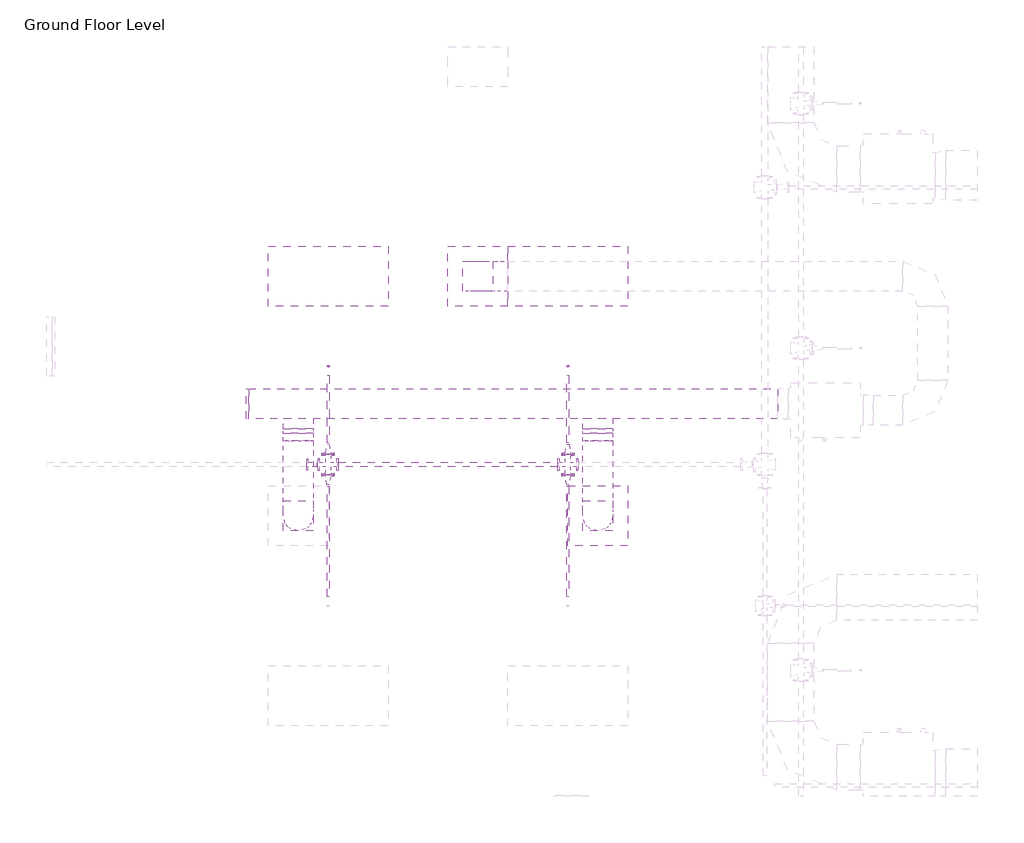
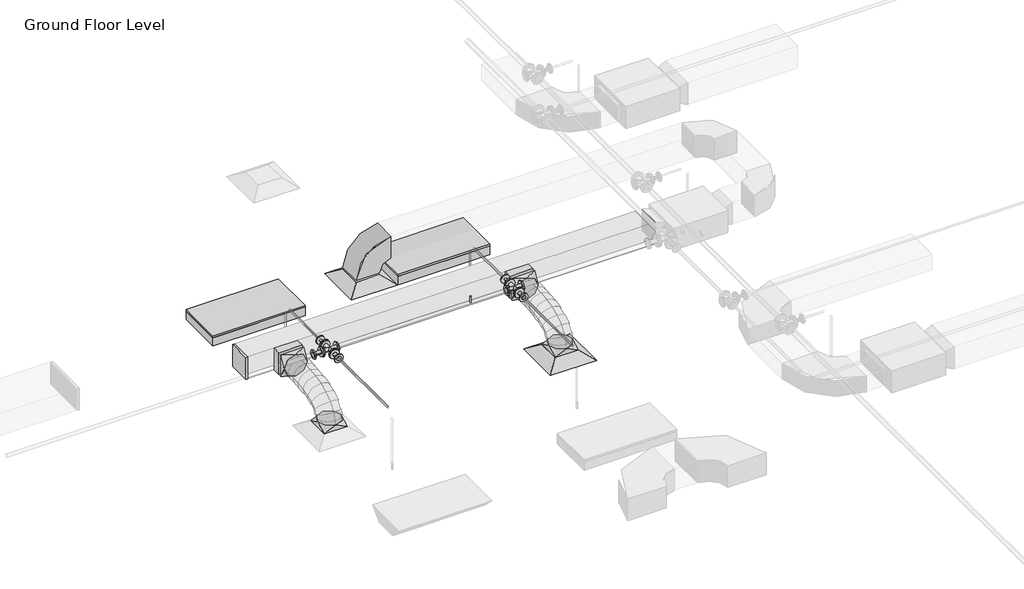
# One storey, part 34 of 66: 8 duct fittings, 7 pipe fittings, 7 pipe segments, 6 duct segments, 2 air terminals, 2 fire suppression terminals, 2 light fixtures.
"""IFC4 building model written with IfcOpenShell, lengths in millimetres."""

from ifc_helpers import new_model, si_unit, point, frame, frame_2d, origin, place, context, project, spatial, polyline, circle_curve, ellipse_curve, trimmed, segment, composite_curve, outline, extrude, transform, mapped, element, save
from ifc_brep_helpers import plane_surface, cylinder_surface, advanced_brep
from components import m_return_diffuser_600_x_600_face_300_x_300_connection_ff221211, m_rectangular_elbow_radius_1_w_618da153, m_rectangular_endcap_standard_c319d4e7, m_rectangular_takeoff_standard_cb0ccb98, m_rectangular_to_round_transition_angle_45_degree_641efff0, m_sprinkler_dry_pendent_hosted_15_mm_dry_pendent_9bda8e11, m_troffer_light_parabolic_rectangular1_0600x1200mm_4_lamp_86473d4a, m_cross_flanged_cs_class_150_standard_fc817054, m_reducer_flanged_cs_class_150_standard_564df86d, m_reducer_flanged_cs_class_150_standard_dc68ad9d

model = new_model("IFC4")

# Units and contexts
model_context = context("Model", 3, world=origin())
ifc_project = project(units=[si_unit("LENGTHUNIT", "METRE", prefix="MILLI")], contexts=[model_context])

# Site, building, storey
site = spatial("IfcSite", under=ifc_project)
building = spatial("IfcBuilding", under=site)
storey = spatial("IfcBuildingStorey", under=building, Name="Ground Floor Level", Elevation=900.0)

# Air terminals
placement = place(None, origin())
m_return_diffuser_600_x_600_face_300_x_300_connection_shape = m_return_diffuser_600_x_600_face_300_x_300_connection_ff221211(model_context)
element("IfcAirTerminal", 1, ObjectType="M_Return Diffuser : 600 x 600 Face 300 x 300 Connection", at=placement, inside=storey, context=model_context, shape_type="MappedRepresentation", body=[
    mapped(m_return_diffuser_600_x_600_face_300_x_300_connection_shape, transform((2762.7672395, -1064.7846466, 3650.0), x_axis=(1.0, 0.0, 0.0), y_axis=(0.0, 1.0, 0.0), z_axis=(0.0, 0.0, 1.0))),
])
element("IfcAirTerminal", 2, ObjectType="M_Supply Diffuser : 600 x 600 Face 300 x 300 Connection", at=placement, inside=storey, context=model_context, shape_type="MappedRepresentation", body=[
    mapped(m_return_diffuser_600_x_600_face_300_x_300_connection_shape, transform((3962.7672395, -3464.7846466, 3650.0), x_axis=(1.0, 0.0, 0.0), y_axis=(0.0, 1.0, 0.0), z_axis=(0.0, 0.0, 1.0))),
])

# Duct fittings
m_rectangular_elbow_radius_1_w_shape = m_rectangular_elbow_radius_1_w_618da153(model_context)
element("IfcDuctFitting", 3, ObjectType="M_Rectangular Elbow - Radius : 1 W", at=placement, inside=storey, context=model_context, shape_type="MappedRepresentation", body=[
    mapped(m_rectangular_elbow_radius_1_w_shape, transform((2762.7672395, -1064.7846466, 4075.2874667), x_axis=(0.0, 0.0, 1.0), y_axis=(1.0, 0.0, 0.0), z_axis=(0.0, 1.0, 0.0))),
])
m_rectangular_endcap_standard_shape = m_rectangular_endcap_standard_c319d4e7(model_context)
element("IfcDuctFitting", 4, ObjectType="M_Rectangular Endcap : Standard", at=placement, inside=storey, context=model_context, shape_type="MappedRepresentation", body=[
    mapped(m_rectangular_endcap_standard_shape, transform((468.0139492, -2341.7438478, 4099.9874667), x_axis=(-0.9999999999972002, 0.0, -2.3663212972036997e-06), y_axis=(0.0, -1.0, 0.0), z_axis=(-2.3663212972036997e-06, 0.0, 0.9999999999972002))),
])
m_rectangular_takeoff_standard_shape = m_rectangular_takeoff_standard_cb0ccb98(model_context)
element("IfcDuctFitting", 5, ObjectType="M_Rectangular Takeoff : Standard", at=placement, inside=storey, context=model_context, shape_type="MappedRepresentation", body=[
    mapped(m_rectangular_takeoff_standard_shape, transform((3962.7672395, -2491.7438478, 4099.9957364), x_axis=(0.0, -1.0, 0.0), y_axis=(-1.0, 0.0, 0.0), z_axis=(0.0, 0.0, -1.0))),
])
element("IfcDuctFitting", 6, ObjectType="M_Rectangular Takeoff : Standard", at=placement, inside=storey, context=model_context, shape_type="MappedRepresentation", body=[
    mapped(m_rectangular_takeoff_standard_shape, transform((962.7672395, -2491.7438478, 4099.9886375), x_axis=(0.0, -1.0, 0.0), y_axis=(-1.0, 0.0, 0.0), z_axis=(0.0, 0.0, -1.0))),
])
m_rectangular_to_round_transition_angle_45_degree_shape = m_rectangular_to_round_transition_angle_45_degree_641efff0(model_context)
element("IfcDuctFitting", 7, ObjectType="M_Rectangular to Round Transition - Angle : 45 Degree", at=placement, inside=storey, context=model_context, shape_type="MappedRepresentation", body=[
    mapped(m_rectangular_to_round_transition_angle_45_degree_shape, transform((962.7672395, -3464.7846466, 3751.6), x_axis=(0.0, 0.0, 1.0), y_axis=(-1.0, 0.0, 0.0), z_axis=(0.0, -1.0, 0.0))),
])
element("IfcDuctFitting", 8, ObjectType="M_Rectangular to Round Transition - Angle : 45 Degree", at=placement, inside=storey, context=model_context, shape_type="MappedRepresentation", body=[
    mapped(m_rectangular_to_round_transition_angle_45_degree_shape, transform((962.7672395, -2637.4373528, 4099.9886375), x_axis=(0.0, -1.0, 0.0), y_axis=(1.0, 0.0, 0.0), z_axis=(0.0, 0.0, 1.0))),
])
element("IfcDuctFitting", 9, ObjectType="M_Rectangular to Round Transition - Angle : 45 Degree", at=placement, inside=storey, context=model_context, shape_type="MappedRepresentation", body=[
    mapped(m_rectangular_to_round_transition_angle_45_degree_shape, transform((3962.7672395, -3464.7846466, 3751.6), x_axis=(0.0, 0.0, 1.0), y_axis=(-1.0, 0.0, 0.0), z_axis=(0.0, -1.0, 0.0))),
])
element("IfcDuctFitting", 10, ObjectType="M_Rectangular to Round Transition - Angle : 45 Degree", at=placement, inside=storey, context=model_context, shape_type="MappedRepresentation", body=[
    mapped(m_rectangular_to_round_transition_angle_45_degree_shape, transform((3962.7672395, -2637.4444518, 4099.9957364), x_axis=(0.0, -1.0, 0.0), y_axis=(1.0, 0.0, 0.0), z_axis=(0.0, 0.0, 1.0))),
])

# Duct segments
element("IfcDuctSegment", 11, ObjectType="Flex - Round", at=placement, inside=storey, context=model_context, shape_type="AdvancedBrep", body=[
    advanced_brep(
    [(1112.7672395, -3464.7846466, 3826.6), (962.7672395, -3614.7846466, 3826.6), (812.7672395, -3464.7846466, 3826.6), (962.7672395, -3314.7846466, 3826.6), (1112.7672395, -3464.7846466, 3857.9381884), (962.7672395, -3614.7846466, 3883.5819935), (812.7672395, -3464.7846466, 3857.9381884), (962.7672395, -3314.7846466, 3832.2943832), (1112.7672395, -3447.768399, 3906.25078), (962.7672395, -3581.5056623, 3978.0678058), (812.7672395, -3447.768399, 3906.25078), (962.7672395, -3314.0311357, 3834.4337542), (1112.7672395, -3400.5836609, 3968.7107931), (962.7672395, -3504.7876153, 4079.6220458), (812.7672395, -3400.5836609, 3968.7107931), (962.7672395, -3296.3797065, 3857.7995403), (1112.7672395, -3329.0264393, 4016.0681252), (962.7672395, -3397.9574302, 4150.3234013), (812.7672395, -3329.0264393, 4016.0681252), (962.7672395, -3260.0954484, 3881.8128492), (1112.7672395, -3238.8927413, 4050.4108625), (962.7672395, -3282.4501545, 4194.3339779), (812.7672395, -3238.8927413, 4050.4108625), (962.7672395, -3195.3353281, 3906.4877471), (1112.7672395, -3135.978574, 4073.8270909), (962.7672395, -3162.5363225, 4221.6181678), (812.7672395, -3135.978574, 4073.8270909), (962.7672395, -3109.4208256, 3926.0360141), (1112.7672395, -3026.0799445, 4088.4048966), (962.7672395, -3041.2280867, 4237.7094321), (812.7672395, -3026.0799445, 4088.4048966), (962.7672395, -3010.9318022, 3939.1003612), (1112.7672395, -2914.9928597, 4096.2323656), (962.7672395, -2922.4960405, 4246.0755838), (812.7672395, -2914.9928597, 4096.2323656), (962.7672395, -2907.4896789, 3946.3891473), (1112.7672395, -2808.5133268, 4099.3975838), (962.7672395, -2811.2035581, 4249.3838721), (812.7672395, -2808.5133268, 4099.3975838), (962.7672395, -2805.8230955, 3949.4112955), (1112.7672395, -2712.4373528, 4099.9886375), (962.7672395, -2711.5145792, 3949.9914759), (812.7672395, -2712.4373528, 4099.9886375), (962.7672395, -2713.3601263, 4249.9857991)],
    [
        (0, 1, circle_curve(frame((962.7672395, -3464.7846466, 3826.6), z_axis=(0.0, 0.0, -1.0), x_axis=(1.0, 0.0, 0.0)), 150.0)),
        (1, 2, circle_curve(frame((962.7672395, -3464.7846466, 3826.6), z_axis=(0.0, 0.0, -1.0), x_axis=(1.0, 0.0, 0.0)), 150.0)),
        (2, 3, circle_curve(frame((962.7672395, -3464.7846466, 3826.6), z_axis=(0.0, 0.0, -1.0), x_axis=(1.0, 0.0, 0.0)), 150.0)),
        (3, 0, circle_curve(frame((962.7672395, -3464.7846466, 3826.6), z_axis=(0.0, 0.0, -1.0), x_axis=(1.0, 0.0, 0.0)), 150.0)),
        (0, 4),
        (4, 5, ellipse_curve(frame((962.7672395, -3464.7846466, 3857.9381884), z_axis=(0.0, -0.1685138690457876, -0.985699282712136), x_axis=(0.0, 0.9856992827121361, -0.16851386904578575)), 152.1762292, 150.0)),
        (5, 1),
        (5, 6, ellipse_curve(frame((962.7672395, -3464.7846466, 3857.9381884), z_axis=(0.0, -0.1685138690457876, -0.985699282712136), x_axis=(0.0, 0.9856992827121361, -0.16851386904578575)), 152.1762292, 150.0)),
        (6, 2),
        (6, 7, ellipse_curve(frame((962.7672395, -3464.7846466, 3857.9381884), z_axis=(0.0, -0.1685138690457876, -0.985699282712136), x_axis=(0.0, 0.9856992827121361, -0.16851386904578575)), 152.1762292, 150.0)),
        (7, 3),
        (7, 4, ellipse_curve(frame((962.7672395, -3464.7846466, 3857.9381884), z_axis=(0.0, -0.1685138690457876, -0.985699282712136), x_axis=(0.0, 0.9856992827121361, -0.16851386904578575)), 152.1762292, 150.0)),
        (4, 8),
        (8, 9, ellipse_curve(frame((962.7672395, -3447.768399, 3906.25078), z_axis=(0.0, -0.47310190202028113, -0.8810077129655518), x_axis=(0.0, 0.8810077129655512, -0.47310190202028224)), 151.800332, 150.0)),
        (9, 5),
        (9, 10, ellipse_curve(frame((962.7672395, -3447.768399, 3906.25078), z_axis=(0.0, -0.47310190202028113, -0.8810077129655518), x_axis=(0.0, 0.8810077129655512, -0.47310190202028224)), 151.800332, 150.0)),
        (10, 6),
        (10, 11, ellipse_curve(frame((962.7672395, -3447.768399, 3906.25078), z_axis=(0.0, -0.47310190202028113, -0.8810077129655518), x_axis=(0.0, 0.8810077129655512, -0.47310190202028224)), 151.800332, 150.0)),
        (11, 7),
        (11, 8, ellipse_curve(frame((962.7672395, -3447.768399, 3906.25078), z_axis=(0.0, -0.47310190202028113, -0.8810077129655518), x_axis=(0.0, 0.8810077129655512, -0.47310190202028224)), 151.800332, 150.0)),
        (8, 12),
        (12, 13, ellipse_curve(frame((962.7672395, -3400.5836609, 3968.7107931), z_axis=(0.0, -0.7288002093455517, -0.6847264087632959), x_axis=(0.0, 0.6847264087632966, -0.7288002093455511)), 152.1833437, 150.0)),
        (13, 9),
        (13, 14, ellipse_curve(frame((962.7672395, -3400.5836609, 3968.7107931), z_axis=(0.0, -0.7288002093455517, -0.6847264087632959), x_axis=(0.0, 0.6847264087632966, -0.7288002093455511)), 152.1833437, 150.0)),
        (14, 10),
        (14, 15, ellipse_curve(frame((962.7672395, -3400.5836609, 3968.7107931), z_axis=(0.0, -0.7288002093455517, -0.6847264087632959), x_axis=(0.0, 0.6847264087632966, -0.7288002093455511)), 152.1833437, 150.0)),
        (15, 11),
        (15, 12, ellipse_curve(frame((962.7672395, -3400.5836609, 3968.7107931), z_axis=(0.0, -0.7288002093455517, -0.6847264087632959), x_axis=(0.0, 0.6847264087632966, -0.7288002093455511)), 152.1833437, 150.0)),
        (12, 16),
        (16, 17, ellipse_curve(frame((962.7672395, -3329.0264393, 4016.0681252), z_axis=(0.0, -0.8895963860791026, -0.45674749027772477), x_axis=(0.0, 0.456747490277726, -0.889596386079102)), 150.9170655, 150.0)),
        (17, 13),
        (17, 18, ellipse_curve(frame((962.7672395, -3329.0264393, 4016.0681252), z_axis=(0.0, -0.8895963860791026, -0.45674749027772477), x_axis=(0.0, 0.456747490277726, -0.889596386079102)), 150.9170655, 150.0)),
        (18, 14),
        (18, 19, ellipse_curve(frame((962.7672395, -3329.0264393, 4016.0681252), z_axis=(0.0, -0.8895963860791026, -0.45674749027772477), x_axis=(0.0, 0.456747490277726, -0.889596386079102)), 150.9170655, 150.0)),
        (19, 15),
        (19, 16, ellipse_curve(frame((962.7672395, -3329.0264393, 4016.0681252), z_axis=(0.0, -0.8895963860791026, -0.45674749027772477), x_axis=(0.0, 0.456747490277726, -0.889596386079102)), 150.9170655, 150.0)),
        (16, 20),
        (20, 21, ellipse_curve(frame((962.7672395, -3238.8927413, 4050.4108625), z_axis=(0.0, -0.9571270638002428, -0.28966840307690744), x_axis=(0.0, 0.2896684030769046, -0.9571270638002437)), 150.3699152, 150.0)),
        (21, 17),
        (21, 22, ellipse_curve(frame((962.7672395, -3238.8927413, 4050.4108625), z_axis=(0.0, -0.9571270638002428, -0.28966840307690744), x_axis=(0.0, 0.2896684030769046, -0.9571270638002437)), 150.3699152, 150.0)),
        (22, 18),
        (22, 23, ellipse_curve(frame((962.7672395, -3238.8927413, 4050.4108625), z_axis=(0.0, -0.9571270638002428, -0.28966840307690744), x_axis=(0.0, 0.2896684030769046, -0.9571270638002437)), 150.3699152, 150.0)),
        (23, 19),
        (23, 20, ellipse_curve(frame((962.7672395, -3238.8927413, 4050.4108625), z_axis=(0.0, -0.9571270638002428, -0.28966840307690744), x_axis=(0.0, 0.2896684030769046, -0.9571270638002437)), 150.3699152, 150.0)),
        (20, 24),
        (24, 25, ellipse_curve(frame((962.7672395, -3135.978574, 4073.8270909), z_axis=(0.0, -0.9842351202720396, -0.17686499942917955), x_axis=(0.0, 0.176864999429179, -0.9842351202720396)), 150.1583045, 150.0)),
        (25, 21),
        (25, 26, ellipse_curve(frame((962.7672395, -3135.978574, 4073.8270909), z_axis=(0.0, -0.9842351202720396, -0.17686499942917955), x_axis=(0.0, 0.176864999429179, -0.9842351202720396)), 150.1583045, 150.0)),
        (26, 22),
        (26, 27, ellipse_curve(frame((962.7672395, -3135.978574, 4073.8270909), z_axis=(0.0, -0.9842351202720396, -0.17686499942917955), x_axis=(0.0, 0.176864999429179, -0.9842351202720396)), 150.1583045, 150.0)),
        (27, 23),
        (27, 24, ellipse_curve(frame((962.7672395, -3135.978574, 4073.8270909), z_axis=(0.0, -0.9842351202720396, -0.17686499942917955), x_axis=(0.0, 0.176864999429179, -0.9842351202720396)), 150.1583045, 150.0)),
        (24, 28),
        (28, 29, ellipse_curve(frame((962.7672395, -3026.0799445, 4088.4048966), z_axis=(0.0, -0.9948925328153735, -0.10093982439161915), x_axis=(0.0, 0.10093982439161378, -0.9948925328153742)), 150.0710183, 150.0)),
        (29, 25),
        (29, 30, ellipse_curve(frame((962.7672395, -3026.0799445, 4088.4048966), z_axis=(0.0, -0.9948925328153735, -0.10093982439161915), x_axis=(0.0, 0.10093982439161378, -0.9948925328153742)), 150.0710183, 150.0)),
        (30, 26),
        (30, 31, ellipse_curve(frame((962.7672395, -3026.0799445, 4088.4048966), z_axis=(0.0, -0.9948925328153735, -0.10093982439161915), x_axis=(0.0, 0.10093982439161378, -0.9948925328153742)), 150.0710183, 150.0)),
        (31, 27),
        (31, 28, ellipse_curve(frame((962.7672395, -3026.0799445, 4088.4048966), z_axis=(0.0, -0.9948925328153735, -0.10093982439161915), x_axis=(0.0, 0.10093982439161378, -0.9948925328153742)), 150.0710183, 150.0)),
        (28, 32),
        (32, 33, ellipse_curve(frame((962.7672395, -2914.9928597, 4096.2323656), z_axis=(0.0, -0.998748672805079, -0.050010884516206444), x_axis=(0.0, 0.05001088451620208, -0.9987486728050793)), 150.030956, 150.0)),
        (33, 29),
        (33, 34, ellipse_curve(frame((962.7672395, -2914.9928597, 4096.2323656), z_axis=(0.0, -0.998748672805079, -0.050010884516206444), x_axis=(0.0, 0.05001088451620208, -0.9987486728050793)), 150.030956, 150.0)),
        (34, 30),
        (34, 35, ellipse_curve(frame((962.7672395, -2914.9928597, 4096.2323656), z_axis=(0.0, -0.998748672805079, -0.050010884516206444), x_axis=(0.0, 0.05001088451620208, -0.9987486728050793)), 150.030956, 150.0)),
        (35, 31),
        (35, 32, ellipse_curve(frame((962.7672395, -2914.9928597, 4096.2323656), z_axis=(0.0, -0.998748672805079, -0.050010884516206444), x_axis=(0.0, 0.05001088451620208, -0.9987486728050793)), 150.030956, 150.0)),
        (32, 36),
        (36, 37, ellipse_curve(frame((962.7672395, -2808.5133268, 4099.3975838), z_axis=(0.0, -0.9998391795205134, -0.017933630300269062), x_axis=(0.0, 0.017933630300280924, -0.9998391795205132)), 150.0104131, 150.0)),
        (37, 33),
        (37, 38, ellipse_curve(frame((962.7672395, -2808.5133268, 4099.3975838), z_axis=(0.0, -0.9998391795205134, -0.017933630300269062), x_axis=(0.0, 0.017933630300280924, -0.9998391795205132)), 150.0104131, 150.0)),
        (38, 34),
        (38, 39, ellipse_curve(frame((962.7672395, -2808.5133268, 4099.3975838), z_axis=(0.0, -0.9998391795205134, -0.017933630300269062), x_axis=(0.0, 0.017933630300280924, -0.9998391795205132)), 150.0104131, 150.0)),
        (39, 35),
        (39, 36, ellipse_curve(frame((962.7672395, -2808.5133268, 4099.3975838), z_axis=(0.0, -0.9998391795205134, -0.017933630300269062), x_axis=(0.0, 0.017933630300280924, -0.9998391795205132)), 150.0104131, 150.0)),
        (40, 41, circle_curve(frame((962.7672395, -2712.4373528, 4099.9886375), z_axis=(0.0, 0.9999810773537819, 0.006151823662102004), x_axis=(1.0, 0.0, 0.0)), 150.0)),
        (41, 42, circle_curve(frame((962.7672395, -2712.4373528, 4099.9886375), z_axis=(0.0, 0.9999810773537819, 0.006151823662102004), x_axis=(1.0, 0.0, 0.0)), 150.0)),
        (42, 43, circle_curve(frame((962.7672395, -2712.4373528, 4099.9886375), z_axis=(0.0, 0.9999810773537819, 0.006151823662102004), x_axis=(1.0, 0.0, 0.0)), 150.0)),
        (43, 40, circle_curve(frame((962.7672395, -2712.4373528, 4099.9886375), z_axis=(0.0, 0.9999810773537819, 0.006151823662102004), x_axis=(1.0, 0.0, 0.0)), 150.0)),
        (36, 40),
        (43, 37),
        (42, 38),
        (41, 39),
    ],
    [
        plane_surface(frame((962.7672395, -3614.7846466, 3826.6), z_axis=(0.0, 0.0, -1.0), x_axis=(1.0, 0.0, 0.0))),
        cylinder_surface(frame((962.7672395, -3464.7846466, 3826.6), z_axis=(0.0, 0.0, -1.0), x_axis=(1.0, 0.0, 0.0)), 150.0),
        cylinder_surface(frame((962.7672395, -3464.7846466, 3857.9381884), z_axis=(0.0, -0.3322079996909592, -0.9432061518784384), x_axis=(1.0, 0.0, 0.0)), 150.0),
        cylinder_surface(frame((962.7672395, -3447.768399, 3906.25078), z_axis=(0.0, -0.6027739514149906, -0.79791200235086), x_axis=(1.0, 0.0, 0.0)), 150.0),
        cylinder_surface(frame((962.7672395, -3400.5836609, 3968.7107931), z_axis=(0.0, -0.8339145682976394, -0.5518935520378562), x_axis=(1.0, 0.0, 0.0)), 150.0),
        cylinder_surface(frame((962.7672395, -3329.0264393, 4016.0681252), z_axis=(0.0, -0.9344667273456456, -0.35605046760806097), x_axis=(1.0, 0.0, 0.0)), 150.0),
        cylinder_surface(frame((962.7672395, -3238.8927413, 4050.4108625), z_axis=(0.0, -0.9750782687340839, -0.22186114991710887), x_axis=(1.0, 0.0, 0.0)), 150.0),
        cylinder_surface(frame((962.7672395, -3135.978574, 4073.8270909), z_axis=(0.0, -0.9913167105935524, -0.13149592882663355), x_axis=(1.0, 0.0, 0.0)), 150.0),
        cylinder_surface(frame((962.7672395, -3026.0799445, 4088.4048966), z_axis=(0.0, -0.9975267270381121, -0.07028818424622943), x_axis=(1.0, 0.0, 0.0)), 150.0),
        cylinder_surface(frame((962.7672395, -2914.9928597, 4096.2323656), z_axis=(0.0, -0.9995584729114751, -0.029712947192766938), x_axis=(1.0, 0.0, 0.0)), 150.0),
        plane_surface(frame((962.7672395, -2713.3601263, 4249.9857991), z_axis=(0.0, 0.999981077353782, 0.006151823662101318), x_axis=(1.0, 0.0, 0.0))),
        cylinder_surface(frame((962.7672395, -2808.5133268, 4099.3975838), z_axis=(0.0, -0.9999810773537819, -0.006151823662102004), x_axis=(1.0, 0.0, 0.0)), 150.0),
    ],
    [
        (0, [[1, 2, 3, 4]]),
        (1, [[-1, 5, 6, 7]]),
        (1, [[-2, -7, 8, 9]]),
        (1, [[-3, -9, 10, 11]]),
        (1, [[-4, -11, 12, -5]]),
        (2, [[-6, 13, 14, 15]]),
        (2, [[-8, -15, 16, 17]]),
        (2, [[-10, -17, 18, 19]]),
        (2, [[-12, -19, 20, -13]]),
        (3, [[-14, 21, 22, 23]]),
        (3, [[-16, -23, 24, 25]]),
        (3, [[-18, -25, 26, 27]]),
        (3, [[-20, -27, 28, -21]]),
        (4, [[-22, 29, 30, 31]]),
        (4, [[-24, -31, 32, 33]]),
        (4, [[-26, -33, 34, 35]]),
        (4, [[-28, -35, 36, -29]]),
        (5, [[-30, 37, 38, 39]]),
        (5, [[-32, -39, 40, 41]]),
        (5, [[-34, -41, 42, 43]]),
        (5, [[-36, -43, 44, -37]]),
        (6, [[-38, 45, 46, 47]]),
        (6, [[-40, -47, 48, 49]]),
        (6, [[-42, -49, 50, 51]]),
        (6, [[-44, -51, 52, -45]]),
        (7, [[-46, 53, 54, 55]]),
        (7, [[-48, -55, 56, 57]]),
        (7, [[-50, -57, 58, 59]]),
        (7, [[-52, -59, 60, -53]]),
        (8, [[-54, 61, 62, 63]]),
        (8, [[-56, -63, 64, 65]]),
        (8, [[-58, -65, 66, 67]]),
        (8, [[-60, -67, 68, -61]]),
        (9, [[-62, 69, 70, 71]]),
        (9, [[-64, -71, 72, 73]]),
        (9, [[-66, -73, 74, 75]]),
        (9, [[-68, -75, 76, -69]]),
        (10, [[77, 78, 79, 80]]),
        (11, [[-70, 81, -80, 82]]),
        (11, [[-72, -82, -79, 83]]),
        (11, [[-74, -83, -78, 84]]),
        (11, [[-76, -84, -77, -81]]),
    ],
),
])
element("IfcDuctSegment", 12, ObjectType="Flex - Round", at=placement, inside=storey, context=model_context, shape_type="AdvancedBrep", body=[
    advanced_brep(
    [(4112.7672395, -3464.7846466, 3826.6), (3962.7672395, -3614.7846466, 3826.6), (3812.7672395, -3464.7846466, 3826.6), (3962.7672395, -3314.7846466, 3826.6), (4112.7672395, -3464.7846466, 3857.9378904), (3962.7672395, -3614.7846466, 3883.5813314), (3812.7672395, -3464.7846466, 3857.9378904), (3962.7672395, -3314.7846466, 3832.2944494), (4112.7672395, -3447.7685958, 3906.2506506), (3962.7672395, -3581.5063062, 3978.066738), (3812.7672395, -3447.7685958, 3906.2506506), (3962.7672395, -3314.0308854, 3834.4345631), (4112.7672395, -3400.5843936, 3968.711118), (3962.7672395, -3504.7895631, 4079.6211441), (3812.7672395, -3400.5843936, 3968.711118), (3962.7672395, -3296.3792241, 3857.8010918), (4112.7672395, -3329.0279651, 4016.0693364), (3962.7672395, -3397.9608708, 4150.3236185), (3812.7672395, -3329.0279651, 4016.0693364), (3962.7672395, -3260.0950595, 3881.8150544), (4112.7672395, -3238.8952355, 4050.4132402), (3962.7672395, -3282.4547417, 4194.3357259), (3812.7672395, -3238.8952355, 4050.4132402), (3962.7672395, -3195.3357294, 3906.4907544), (4112.7672395, -3135.98213, 4073.8307635), (3962.7672395, -3162.5418624, 4221.6214893), (3812.7672395, -3135.98213, 4073.8307635), (3962.7672395, -3109.4223976, 3926.0400376), (4112.7672395, -3026.0845737, 4088.4098405), (3962.7672395, -3041.2344403, 4237.7142061), (3812.7672395, -3026.0845737, 4088.4098405), (3962.7672395, -3010.934707, 3939.1054749), (4112.7672395, -2914.9984918, 4096.2384055), (3962.7672395, -2922.5030142, 4246.0815611), (3812.7672395, -2914.9984918, 4096.2384055), (3962.7672395, -2907.4939693, 3946.3952499), (4112.7672395, -2808.5198094, 4099.4043927), (3962.7672395, -2811.210829, 4249.3906708), (3812.7672395, -2808.5198094, 4099.4043927), (3962.7672395, -2805.8287898, 3949.4181147), (4112.7672395, -2712.4444518, 4099.9957364), (3962.7672395, -2711.5212194, 3949.9985777), (3812.7672395, -2712.4444518, 4099.9957364), (3962.7672395, -2713.3676841, 4249.9928952)],
    [
        (0, 1, circle_curve(frame((3962.7672395, -3464.7846466, 3826.6), z_axis=(0.0, 0.0, -1.0), x_axis=(1.0, 0.0, 0.0)), 150.0)),
        (1, 2, circle_curve(frame((3962.7672395, -3464.7846466, 3826.6), z_axis=(0.0, 0.0, -1.0), x_axis=(1.0, 0.0, 0.0)), 150.0)),
        (2, 3, circle_curve(frame((3962.7672395, -3464.7846466, 3826.6), z_axis=(0.0, 0.0, -1.0), x_axis=(1.0, 0.0, 0.0)), 150.0)),
        (3, 0, circle_curve(frame((3962.7672395, -3464.7846466, 3826.6), z_axis=(0.0, 0.0, -1.0), x_axis=(1.0, 0.0, 0.0)), 150.0)),
        (0, 4),
        (4, 5, ellipse_curve(frame((3962.7672395, -3464.7846466, 3857.9378904), z_axis=(0.0, -0.1685115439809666, -0.9856996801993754), x_axis=(0.0, 0.9856996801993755, -0.1685115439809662)), 152.1761679, 150.0)),
        (5, 1),
        (5, 6, ellipse_curve(frame((3962.7672395, -3464.7846466, 3857.9378904), z_axis=(0.0, -0.1685115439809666, -0.9856996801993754), x_axis=(0.0, 0.9856996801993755, -0.1685115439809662)), 152.1761679, 150.0)),
        (6, 2),
        (6, 7, ellipse_curve(frame((3962.7672395, -3464.7846466, 3857.9378904), z_axis=(0.0, -0.1685115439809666, -0.9856996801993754), x_axis=(0.0, 0.9856996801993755, -0.1685115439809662)), 152.1761679, 150.0)),
        (7, 3),
        (7, 4, ellipse_curve(frame((3962.7672395, -3464.7846466, 3857.9378904), z_axis=(0.0, -0.1685115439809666, -0.9856996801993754), x_axis=(0.0, 0.9856996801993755, -0.1685115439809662)), 152.1761679, 150.0)),
        (4, 8),
        (8, 9, ellipse_curve(frame((3962.7672395, -3447.7685958, 3906.2506506), z_axis=(0.0, -0.4730958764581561, -0.8810109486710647), x_axis=(0.0, 0.8810109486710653, -0.4730958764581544)), 151.800282, 150.0)),
        (9, 5),
        (9, 10, ellipse_curve(frame((3962.7672395, -3447.7685958, 3906.2506506), z_axis=(0.0, -0.4730958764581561, -0.8810109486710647), x_axis=(0.0, 0.8810109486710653, -0.4730958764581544)), 151.800282, 150.0)),
        (10, 6),
        (10, 11, ellipse_curve(frame((3962.7672395, -3447.7685958, 3906.2506506), z_axis=(0.0, -0.4730958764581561, -0.8810109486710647), x_axis=(0.0, 0.8810109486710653, -0.4730958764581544)), 151.800282, 150.0)),
        (11, 7),
        (11, 8, ellipse_curve(frame((3962.7672395, -3447.7685958, 3906.2506506), z_axis=(0.0, -0.4730958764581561, -0.8810109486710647), x_axis=(0.0, 0.8810109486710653, -0.4730958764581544)), 151.800282, 150.0)),
        (8, 12),
        (12, 13, ellipse_curve(frame((3962.7672395, -3400.5843936, 3968.711118), z_axis=(0.0, -0.7287924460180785, -0.6847346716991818), x_axis=(0.0, 0.6847346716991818, -0.7287924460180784)), 152.1832818, 150.0)),
        (13, 9),
        (13, 14, ellipse_curve(frame((3962.7672395, -3400.5843936, 3968.711118), z_axis=(0.0, -0.7287924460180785, -0.6847346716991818), x_axis=(0.0, 0.6847346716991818, -0.7287924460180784)), 152.1832818, 150.0)),
        (14, 10),
        (14, 15, ellipse_curve(frame((3962.7672395, -3400.5843936, 3968.711118), z_axis=(0.0, -0.7287924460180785, -0.6847346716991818), x_axis=(0.0, 0.6847346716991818, -0.7287924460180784)), 152.1832818, 150.0)),
        (15, 11),
        (15, 12, ellipse_curve(frame((3962.7672395, -3400.5843936, 3968.711118), z_axis=(0.0, -0.7287924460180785, -0.6847346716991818), x_axis=(0.0, 0.6847346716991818, -0.7287924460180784)), 152.1832818, 150.0)),
        (12, 16),
        (16, 17, ellipse_curve(frame((3962.7672395, -3329.0279651, 4016.0693364), z_axis=(0.0, -0.8895898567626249, -0.45676020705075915), x_axis=(0.0, 0.45676020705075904, -0.889589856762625)), 150.9170558, 150.0)),
        (17, 13),
        (17, 18, ellipse_curve(frame((3962.7672395, -3329.0279651, 4016.0693364), z_axis=(0.0, -0.8895898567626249, -0.45676020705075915), x_axis=(0.0, 0.45676020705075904, -0.889589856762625)), 150.9170558, 150.0)),
        (18, 14),
        (18, 19, ellipse_curve(frame((3962.7672395, -3329.0279651, 4016.0693364), z_axis=(0.0, -0.8895898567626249, -0.45676020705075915), x_axis=(0.0, 0.45676020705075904, -0.889589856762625)), 150.9170558, 150.0)),
        (19, 15),
        (19, 16, ellipse_curve(frame((3962.7672395, -3329.0279651, 4016.0693364), z_axis=(0.0, -0.8895898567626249, -0.45676020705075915), x_axis=(0.0, 0.45676020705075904, -0.889589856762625)), 150.9170558, 150.0)),
        (16, 20),
        (20, 21, ellipse_curve(frame((3962.7672395, -3238.8952355, 4050.4132402), z_axis=(0.0, -0.9571228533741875, -0.2896823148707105), x_axis=(0.0, 0.28968231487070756, -0.9571228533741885)), 150.3699188, 150.0)),
        (21, 17),
        (21, 22, ellipse_curve(frame((3962.7672395, -3238.8952355, 4050.4132402), z_axis=(0.0, -0.9571228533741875, -0.2896823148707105), x_axis=(0.0, 0.28968231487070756, -0.9571228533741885)), 150.3699188, 150.0)),
        (22, 18),
        (22, 23, ellipse_curve(frame((3962.7672395, -3238.8952355, 4050.4132402), z_axis=(0.0, -0.9571228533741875, -0.2896823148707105), x_axis=(0.0, 0.28968231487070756, -0.9571228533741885)), 150.3699188, 150.0)),
        (23, 19),
        (23, 20, ellipse_curve(frame((3962.7672395, -3238.8952355, 4050.4132402), z_axis=(0.0, -0.9571228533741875, -0.2896823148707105), x_axis=(0.0, 0.28968231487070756, -0.9571228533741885)), 150.3699188, 150.0)),
        (20, 24),
        (24, 25, ellipse_curve(frame((3962.7672395, -3135.98213, 4073.8307635), z_axis=(0.0, -0.984232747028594, -0.1768782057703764), x_axis=(0.0, 0.17687820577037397, -0.9842327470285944)), 150.1583099, 150.0)),
        (25, 21),
        (25, 26, ellipse_curve(frame((3962.7672395, -3135.98213, 4073.8307635), z_axis=(0.0, -0.984232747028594, -0.1768782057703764), x_axis=(0.0, 0.17687820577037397, -0.9842327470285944)), 150.1583099, 150.0)),
        (26, 22),
        (26, 27, ellipse_curve(frame((3962.7672395, -3135.98213, 4073.8307635), z_axis=(0.0, -0.984232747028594, -0.1768782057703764), x_axis=(0.0, 0.17687820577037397, -0.9842327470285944)), 150.1583099, 150.0)),
        (27, 23),
        (27, 24, ellipse_curve(frame((3962.7672395, -3135.98213, 4073.8307635), z_axis=(0.0, -0.984232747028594, -0.1768782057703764), x_axis=(0.0, 0.17687820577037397, -0.9842327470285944)), 150.1583099, 150.0)),
        (24, 28),
        (28, 29, ellipse_curve(frame((3962.7672395, -3026.0845737, 4088.4098405), z_axis=(0.0, -0.9948913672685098, -0.10095131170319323), x_axis=(0.0, 0.10095131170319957, -0.994891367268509)), 150.0710233, 150.0)),
        (29, 25),
        (29, 30, ellipse_curve(frame((3962.7672395, -3026.0845737, 4088.4098405), z_axis=(0.0, -0.9948913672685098, -0.10095131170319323), x_axis=(0.0, 0.10095131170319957, -0.994891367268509)), 150.0710233, 150.0)),
        (30, 26),
        (30, 31, ellipse_curve(frame((3962.7672395, -3026.0845737, 4088.4098405), z_axis=(0.0, -0.9948913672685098, -0.10095131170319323), x_axis=(0.0, 0.10095131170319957, -0.994891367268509)), 150.0710233, 150.0)),
        (31, 27),
        (31, 28, ellipse_curve(frame((3962.7672395, -3026.0845737, 4088.4098405), z_axis=(0.0, -0.9948913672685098, -0.10095131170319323), x_axis=(0.0, 0.10095131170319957, -0.994891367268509)), 150.0710233, 150.0)),
        (28, 32),
        (32, 33, ellipse_curve(frame((3962.7672395, -2914.9984918, 4096.2384055), z_axis=(0.0, -0.9987482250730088, -0.050019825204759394), x_axis=(0.0, 0.05001982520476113, -0.9987482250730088)), 150.0309606, 150.0)),
        (33, 29),
        (33, 34, ellipse_curve(frame((3962.7672395, -2914.9984918, 4096.2384055), z_axis=(0.0, -0.9987482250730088, -0.050019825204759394), x_axis=(0.0, 0.05001982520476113, -0.9987482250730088)), 150.0309606, 150.0)),
        (34, 30),
        (34, 35, ellipse_curve(frame((3962.7672395, -2914.9984918, 4096.2384055), z_axis=(0.0, -0.9987482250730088, -0.050019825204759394), x_axis=(0.0, 0.05001982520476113, -0.9987482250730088)), 150.0309606, 150.0)),
        (35, 31),
        (35, 32, ellipse_curve(frame((3962.7672395, -2914.9984918, 4096.2384055), z_axis=(0.0, -0.9987482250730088, -0.050019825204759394), x_axis=(0.0, 0.05001982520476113, -0.9987482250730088)), 150.0309606, 150.0)),
        (32, 36),
        (36, 37, ellipse_curve(frame((3962.7672395, -2808.5198094, 4099.4043927), z_axis=(0.0, -0.9998390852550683, -0.01793888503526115), x_axis=(0.0, 0.017938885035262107, -0.9998390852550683)), 150.0104169, 150.0)),
        (37, 33),
        (37, 38, ellipse_curve(frame((3962.7672395, -2808.5198094, 4099.4043927), z_axis=(0.0, -0.9998390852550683, -0.01793888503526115), x_axis=(0.0, 0.017938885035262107, -0.9998390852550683)), 150.0104169, 150.0)),
        (38, 34),
        (38, 39, ellipse_curve(frame((3962.7672395, -2808.5198094, 4099.4043927), z_axis=(0.0, -0.9998390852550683, -0.01793888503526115), x_axis=(0.0, 0.017938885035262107, -0.9998390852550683)), 150.0104169, 150.0)),
        (39, 35),
        (39, 36, ellipse_curve(frame((3962.7672395, -2808.5198094, 4099.4043927), z_axis=(0.0, -0.9998390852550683, -0.01793888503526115), x_axis=(0.0, 0.017938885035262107, -0.9998390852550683)), 150.0104169, 150.0)),
        (40, 41, circle_curve(frame((3962.7672395, -2712.4444518, 4099.9957364), z_axis=(0.0, 0.9999810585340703, 0.006154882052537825), x_axis=(1.0, 0.0, 0.0)), 150.0)),
        (41, 42, circle_curve(frame((3962.7672395, -2712.4444518, 4099.9957364), z_axis=(0.0, 0.9999810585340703, 0.006154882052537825), x_axis=(1.0, 0.0, 0.0)), 150.0)),
        (42, 43, circle_curve(frame((3962.7672395, -2712.4444518, 4099.9957364), z_axis=(0.0, 0.9999810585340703, 0.006154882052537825), x_axis=(1.0, 0.0, 0.0)), 150.0)),
        (43, 40, circle_curve(frame((3962.7672395, -2712.4444518, 4099.9957364), z_axis=(0.0, 0.9999810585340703, 0.006154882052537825), x_axis=(1.0, 0.0, 0.0)), 150.0)),
        (36, 40),
        (43, 37),
        (42, 38),
        (41, 39),
    ],
    [
        plane_surface(frame((3962.7672395, -3614.7846466, 3826.6), z_axis=(0.0, 0.0, -1.0), x_axis=(1.0, 0.0, 0.0))),
        cylinder_surface(frame((3962.7672395, -3464.7846466, 3826.6), z_axis=(0.0, 0.0, -1.0), x_axis=(1.0, 0.0, 0.0)), 150.0),
        cylinder_surface(frame((3962.7672395, -3464.7846466, 3857.9378904), z_axis=(0.0, -0.3322035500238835, -0.9432077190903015), x_axis=(1.0, 0.0, 0.0)), 150.0),
        cylinder_surface(frame((3962.7672395, -3447.7685958, 3906.2506506), z_axis=(0.0, -0.6027668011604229, -0.7979174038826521), x_axis=(1.0, 0.0, 0.0)), 150.0),
        cylinder_surface(frame((3962.7672395, -3400.5843936, 3968.711118), z_axis=(0.0, -0.8339069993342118, -0.5519049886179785), x_axis=(1.0, 0.0, 0.0)), 150.0),
        cylinder_surface(frame((3962.7672395, -3329.0279651, 4016.0693364), z_axis=(0.0, -0.9344614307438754, -0.35606436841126), x_axis=(1.0, 0.0, 0.0)), 150.0),
        cylinder_surface(frame((3962.7672395, -3238.8952355, 4050.4132402), z_axis=(0.0, -0.9750751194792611, -0.22187499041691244), x_axis=(1.0, 0.0, 0.0)), 150.0),
        cylinder_surface(frame((3962.7672395, -3135.98213, 4073.8307635), z_axis=(0.0, -0.9913150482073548, -0.1315084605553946), x_axis=(1.0, 0.0, 0.0)), 150.0),
        cylinder_surface(frame((3962.7672395, -3026.0845737, 4088.4098405), z_axis=(0.0, -0.9975259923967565, -0.07029860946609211), x_axis=(1.0, 0.0, 0.0)), 150.0),
        cylinder_surface(frame((3962.7672395, -2914.9984918, 4096.2384055), z_axis=(0.0, -0.9995582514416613, -0.029720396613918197), x_axis=(1.0, 0.0, 0.0)), 150.0),
        plane_surface(frame((3962.7672395, -2713.3676841, 4249.9928952), z_axis=(0.0, 0.9999810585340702, 0.006154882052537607), x_axis=(1.0, 0.0, 0.0))),
        cylinder_surface(frame((3962.7672395, -2808.5198094, 4099.4043927), z_axis=(0.0, -0.9999810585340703, -0.006154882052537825), x_axis=(1.0, 0.0, 0.0)), 150.0),
    ],
    [
        (0, [[1, 2, 3, 4]]),
        (1, [[-1, 5, 6, 7]]),
        (1, [[-2, -7, 8, 9]]),
        (1, [[-3, -9, 10, 11]]),
        (1, [[-4, -11, 12, -5]]),
        (2, [[-6, 13, 14, 15]]),
        (2, [[-8, -15, 16, 17]]),
        (2, [[-10, -17, 18, 19]]),
        (2, [[-12, -19, 20, -13]]),
        (3, [[-14, 21, 22, 23]]),
        (3, [[-16, -23, 24, 25]]),
        (3, [[-18, -25, 26, 27]]),
        (3, [[-20, -27, 28, -21]]),
        (4, [[-22, 29, 30, 31]]),
        (4, [[-24, -31, 32, 33]]),
        (4, [[-26, -33, 34, 35]]),
        (4, [[-28, -35, 36, -29]]),
        (5, [[-30, 37, 38, 39]]),
        (5, [[-32, -39, 40, 41]]),
        (5, [[-34, -41, 42, 43]]),
        (5, [[-36, -43, 44, -37]]),
        (6, [[-38, 45, 46, 47]]),
        (6, [[-40, -47, 48, 49]]),
        (6, [[-42, -49, 50, 51]]),
        (6, [[-44, -51, 52, -45]]),
        (7, [[-46, 53, 54, 55]]),
        (7, [[-48, -55, 56, 57]]),
        (7, [[-50, -57, 58, 59]]),
        (7, [[-52, -59, 60, -53]]),
        (8, [[-54, 61, 62, 63]]),
        (8, [[-56, -63, 64, 65]]),
        (8, [[-58, -65, 66, 67]]),
        (8, [[-60, -67, 68, -61]]),
        (9, [[-62, 69, 70, 71]]),
        (9, [[-64, -71, 72, 73]]),
        (9, [[-66, -73, 74, 75]]),
        (9, [[-68, -75, 76, -69]]),
        (10, [[77, 78, 79, 80]]),
        (11, [[-70, 81, -80, 82]]),
        (11, [[-72, -82, -79, 83]]),
        (11, [[-74, -83, -78, 84]]),
        (11, [[-76, -84, -77, -81]]),
    ],
),
])
element("IfcDuctSegment", 13, ObjectType="Radius Elbows / Taps", at=placement, inside=storey, context=model_context, shape_type="SweptSolid", body=[
    extrude(outline(polyline([(2912.7672395, -914.7846466), (2912.7672395, -1214.7846466), (2612.7672395, -1214.7846466), (2612.7672395, -914.7846466), (2912.7672395, -914.7846466)])), frame((0.0, 0.0, 3751.6), z_axis=(0.0, 0.0, 1.0), x_axis=(1.0, 0.0, 0.0)), (0.0, 0.0, 1.0), 23.6874667),
])
element("IfcDuctSegment", 14, ObjectType="Radius Elbows / Taps", at=placement, inside=storey, context=model_context, shape_type="SweptSolid", body=[
    extrude(outline(polyline([(0.0, -300.0), (0.0, 0.0), (5296.5207712, 0.0), (5296.5207712, -300.0), (0.0, -300.0)])), frame((5764.5350754, -2491.7438478, 3950.0), z_axis=(-2.366321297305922e-06, 0.0, 0.9999999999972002), x_axis=(-0.9999999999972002, 0.0, -2.366321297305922e-06)), (0.0, 0.0, 1.0), 300.0),
])
element("IfcDuctSegment", 15, ObjectType="Radius Elbows / Taps", at=placement, inside=storey, context=model_context, shape_type="SweptSolid", body=[
    extrude(outline(polyline([(3812.7672395, -2593.3438478), (4112.7672395, -2593.3438478), (4112.7672395, -2637.4444518), (3812.7672395, -2637.4444518), (3812.7672395, -2593.3438478)])), frame((0.0, 0.0, 3949.9957364), z_axis=(0.0, 0.0, 1.0), x_axis=(1.0, 0.0, 0.0)), (0.0, 0.0, 1.0), 300.0),
])
element("IfcDuctSegment", 16, ObjectType="Radius Elbows / Taps", at=placement, inside=storey, context=model_context, shape_type="SweptSolid", body=[
    extrude(outline(polyline([(812.7672395, -2593.3438478), (1112.7672395, -2593.3438478), (1112.7672395, -2637.4373528), (812.7672395, -2637.4373528), (812.7672395, -2593.3438478)])), frame((0.0, 0.0, 3949.9886375), z_axis=(0.0, 0.0, 1.0), x_axis=(1.0, 0.0, 0.0)), (0.0, 0.0, 1.0), 300.0),
])

# Fire suppression terminals
m_sprinkler_dry_pendent_hosted_15_mm_dry_pendent_shape = m_sprinkler_dry_pendent_hosted_15_mm_dry_pendent_9bda8e11(model_context)
element("IfcFireSuppressionTerminal", 17, ObjectType="M_Sprinkler - Dry - Pendent - Hosted : 15 mm Dry Pendent", at=placement, inside=storey, context=model_context, shape_type="MappedRepresentation", body=[
    mapped(m_sprinkler_dry_pendent_hosted_15_mm_dry_pendent_shape, transform((1262.7672395, -1964.7846466, 3650.0), x_axis=(1.0, 0.0, 0.0), y_axis=(0.0, -1.0, 0.0), z_axis=(0.0, 0.0, -1.0))),
])
element("IfcFireSuppressionTerminal", 18, ObjectType="M_Sprinkler - Dry - Pendent - Hosted : 15 mm Dry Pendent", at=placement, inside=storey, context=model_context, shape_type="MappedRepresentation", body=[
    mapped(m_sprinkler_dry_pendent_hosted_15_mm_dry_pendent_shape, transform((3662.7672395, -1964.7846466, 3650.0), x_axis=(1.0, 0.0, 0.0), y_axis=(0.0, -1.0, 0.0), z_axis=(0.0, 0.0, -1.0))),
])

# Light fixtures
m_troffer_light_parabolic_rectangular1_0600x1200mm_4_lamp_shape = m_troffer_light_parabolic_rectangular1_0600x1200mm_4_lamp_86473d4a(model_context)
element("IfcLightFixture", 19, ObjectType="M_Troffer Light - Parabolic Rectangular1 : 0600x1200mm(4 Lamp) - 277V 2", at=placement, inside=storey, context=model_context, shape_type="MappedRepresentation", body=[
    mapped(m_troffer_light_parabolic_rectangular1_0600x1200mm_4_lamp_shape, transform((3681.4707411, -1005.3187145, 3650.0), x_axis=(1.0, 0.0, 0.0), y_axis=(0.0, 1.0, 0.0), z_axis=(0.0, 0.0, 1.0))),
])
element("IfcLightFixture", 20, ObjectType="M_Troffer Light - Parabolic Rectangular1 : 0600x1200mm(4 Lamp) - 277V 2", at=placement, inside=storey, context=model_context, shape_type="MappedRepresentation", body=[
    mapped(m_troffer_light_parabolic_rectangular1_0600x1200mm_4_lamp_shape, transform((1281.4707411, -1005.3187145, 3650.0), x_axis=(1.0, 0.0, 0.0), y_axis=(0.0, 1.0, 0.0), z_axis=(0.0, 0.0, 1.0))),
])

# Pipe fittings
m_cross_flanged_cs_class_150_standard_shape = m_cross_flanged_cs_class_150_standard_fc817054(model_context)
element("IfcPipeFitting", 21, ObjectType="M_Cross - Flanged - CS - Class 150 : Standard", at=placement, inside=storey, context=model_context, shape_type="MappedRepresentation", body=[
    mapped(m_cross_flanged_cs_class_150_standard_shape, transform((3662.7672395, -2950.3491993, 4360.0), x_axis=(1.0, 0.0, 0.0), y_axis=(0.0, -1.0, 0.0), z_axis=(0.0, 0.0, -1.0))),
])
element("IfcPipeFitting", 22, ObjectType="M_Cross - Flanged - CS - Class 150 : Standard", at=placement, inside=storey, context=model_context, shape_type="MappedRepresentation", body=[
    mapped(m_cross_flanged_cs_class_150_standard_shape, transform((1262.7672395, -2950.3491993, 4360.0), x_axis=(1.0, 0.0, 0.0), y_axis=(0.0, -1.0, 0.0), z_axis=(0.0, 0.0, -1.0))),
])
m_reducer_flanged_cs_class_150_standard_shape = m_reducer_flanged_cs_class_150_standard_564df86d(model_context)
element("IfcPipeFitting", 23, ObjectType="M_Reducer - Flanged - CS - Class 150 : Standard", at=placement, inside=storey, context=model_context, shape_type="MappedRepresentation", body=[
    mapped(m_reducer_flanged_cs_class_150_standard_shape, transform((1160.7672395, -2950.3491993, 4360.0), x_axis=(-1.0, 0.0, 0.0), y_axis=(0.0, -1.0, 0.0), z_axis=(0.0, 0.0, 1.0))),
])
m_reducer_flanged_cs_class_150_standard_2_shape = m_reducer_flanged_cs_class_150_standard_dc68ad9d(model_context)
element("IfcPipeFitting", 24, ObjectType="M_Reducer - Flanged - CS - Class 150 : Standard", at=placement, inside=storey, context=model_context, shape_type="MappedRepresentation", body=[
    mapped(m_reducer_flanged_cs_class_150_standard_2_shape, transform((3662.7672395, -2848.3491993, 4360.0), x_axis=(0.0, 1.0, 0.0), y_axis=(-1.0, 0.0, 0.0), z_axis=(0.0, 0.0, 1.0))),
])
element("IfcPipeFitting", 25, ObjectType="M_Reducer - Flanged - CS - Class 150 : Standard", at=placement, inside=storey, context=model_context, shape_type="MappedRepresentation", body=[
    mapped(m_reducer_flanged_cs_class_150_standard_2_shape, transform((3662.7672395, -3052.3491993, 4360.0), x_axis=(0.0, -1.0, 0.0), y_axis=(1.0, 0.0, 0.0), z_axis=(0.0, 0.0, 1.0))),
])
element("IfcPipeFitting", 26, ObjectType="M_Reducer - Flanged - CS - Class 150 : Standard", at=placement, inside=storey, context=model_context, shape_type="MappedRepresentation", body=[
    mapped(m_reducer_flanged_cs_class_150_standard_2_shape, transform((1262.7672395, -2848.3491993, 4360.0), x_axis=(0.0, 1.0, 0.0), y_axis=(-1.0, 0.0, 0.0), z_axis=(0.0, 0.0, 1.0))),
])
element("IfcPipeFitting", 27, ObjectType="M_Reducer - Flanged - CS - Class 150 : Standard", at=placement, inside=storey, context=model_context, shape_type="MappedRepresentation", body=[
    mapped(m_reducer_flanged_cs_class_150_standard_2_shape, transform((1262.7672395, -3052.3491993, 4360.0), x_axis=(0.0, -1.0, 0.0), y_axis=(1.0, 0.0, 0.0), z_axis=(0.0, 0.0, 1.0))),
])

# Pipe segments
element("IfcPipeSegment", 28, ObjectType="Steel flanged", at=placement, inside=storey, context=model_context, shape_type="SweptSolid", body=[
    extrude(outline(composite_curve([segment(trimmed(circle_curve(frame_2d((3662.7672395, -1964.7846466)), 10.668), [point((3652.0992395, -1964.7846466))], [point((3662.7672395, -1954.1166466))], False, "CARTESIAN"), True, "CONTINUOUS"), segment(trimmed(circle_curve(frame_2d((3662.7672395, -1964.7846466)), 10.668), [point((3662.7672395, -1954.1166466))], [point((3673.4352395, -1964.7846466))], False, "CARTESIAN"), True, "CONTINUOUS"), segment(trimmed(circle_curve(frame_2d((3662.7672395, -1964.7846466)), 10.668), [point((3673.4352395, -1964.7846466))], [point((3662.7672395, -1975.4526466))], False, "CARTESIAN"), True, "CONTINUOUS"), segment(trimmed(circle_curve(frame_2d((3662.7672395, -1964.7846466)), 10.668), [point((3662.7672395, -1975.4526466))], [point((3652.0992395, -1964.7846466))], False, "CARTESIAN"), True, "CONTINUOUS")], self_intersect=False)), frame((0.0, 0.0, 3650.0), z_axis=(0.0, 0.0, 1.0), x_axis=(1.0, 0.0, 0.0)), (0.0, 0.0, 1.0), 616.9914063),
])
element("IfcPipeSegment", 29, ObjectType="Steel flanged", at=placement, inside=storey, context=model_context, shape_type="SweptSolid", body=[
    extrude(outline(composite_curve([segment(trimmed(circle_curve(frame_2d((4360.0, 3662.7672395)), 10.668), [point((4360.0, 3652.0992395))], [point((4349.332, 3662.7672395))], False, "CARTESIAN"), True, "CONTINUOUS"), segment(trimmed(circle_curve(frame_2d((4360.0, 3662.7672395)), 10.668), [point((4349.332, 3662.7672395))], [point((4360.0, 3673.4352395))], False, "CARTESIAN"), True, "CONTINUOUS"), segment(trimmed(circle_curve(frame_2d((4360.0, 3662.7672395)), 10.668), [point((4360.0, 3673.4352395))], [point((4370.668, 3662.7672395))], False, "CARTESIAN"), True, "CONTINUOUS"), segment(trimmed(circle_curve(frame_2d((4360.0, 3662.7672395)), 10.668), [point((4370.668, 3662.7672395))], [point((4360.0, 3652.0992395))], False, "CARTESIAN"), True, "CONTINUOUS")], self_intersect=False)), frame((0.0, -2734.3491993, 0.0), z_axis=(0.0, 1.0, 0.0), x_axis=(0.0, 0.0, 1.0)), (0.0, 0.0, 1.0), 676.5559589),
])
element("IfcPipeSegment", 30, ObjectType="Steel flanged", at=placement, inside=storey, context=model_context, shape_type="SweptSolid", body=[
    extrude(outline(composite_curve([segment(trimmed(circle_curve(frame_2d((1262.7672395, -1964.7846466)), 10.668), [point((1252.0992395, -1964.7846466))], [point((1262.7672395, -1954.1166466))], False, "CARTESIAN"), True, "CONTINUOUS"), segment(trimmed(circle_curve(frame_2d((1262.7672395, -1964.7846466)), 10.668), [point((1262.7672395, -1954.1166466))], [point((1273.4352395, -1964.7846466))], False, "CARTESIAN"), True, "CONTINUOUS"), segment(trimmed(circle_curve(frame_2d((1262.7672395, -1964.7846466)), 10.668), [point((1273.4352395, -1964.7846466))], [point((1262.7672395, -1975.4526466))], False, "CARTESIAN"), True, "CONTINUOUS"), segment(trimmed(circle_curve(frame_2d((1262.7672395, -1964.7846466)), 10.668), [point((1262.7672395, -1975.4526466))], [point((1252.0992395, -1964.7846466))], False, "CARTESIAN"), True, "CONTINUOUS")], self_intersect=False)), frame((0.0, 0.0, 3650.0), z_axis=(0.0, 0.0, 1.0), x_axis=(1.0, 0.0, 0.0)), (0.0, 0.0, 1.0), 616.9914063),
])
element("IfcPipeSegment", 31, ObjectType="Steel flanged", at=placement, inside=storey, context=model_context, shape_type="SweptSolid", body=[
    extrude(outline(composite_curve([segment(trimmed(circle_curve(frame_2d((4360.0, 1262.7672395)), 10.668), [point((4360.0, 1252.0992395))], [point((4349.332, 1262.7672395))], False, "CARTESIAN"), True, "CONTINUOUS"), segment(trimmed(circle_curve(frame_2d((4360.0, 1262.7672395)), 10.668), [point((4349.332, 1262.7672395))], [point((4360.0, 1273.4352395))], False, "CARTESIAN"), True, "CONTINUOUS"), segment(trimmed(circle_curve(frame_2d((4360.0, 1262.7672395)), 10.668), [point((4360.0, 1273.4352395))], [point((4370.668, 1262.7672395))], False, "CARTESIAN"), True, "CONTINUOUS"), segment(trimmed(circle_curve(frame_2d((4360.0, 1262.7672395)), 10.668), [point((4370.668, 1262.7672395))], [point((4360.0, 1252.0992395))], False, "CARTESIAN"), True, "CONTINUOUS")], self_intersect=False)), frame((0.0, -2734.3491993, 0.0), z_axis=(0.0, 1.0, 0.0), x_axis=(0.0, 0.0, 1.0)), (0.0, 0.0, 1.0), 676.5559589),
])
element("IfcPipeSegment", 32, ObjectType="Steel flanged", at=placement, inside=storey, context=model_context, shape_type="SweptSolid", body=[
    extrude(outline(composite_curve([segment(trimmed(circle_curve(frame_2d((-2950.3491993, 4360.0)), 24.13), [point((-2926.2191993, 4360.0))], [point((-2950.3491993, 4335.87))], False, "CARTESIAN"), True, "CONTINUOUS"), segment(trimmed(circle_curve(frame_2d((-2950.3491993, 4360.0)), 24.13), [point((-2950.3491993, 4335.87))], [point((-2974.4791993, 4360.0))], False, "CARTESIAN"), True, "CONTINUOUS"), segment(trimmed(circle_curve(frame_2d((-2950.3491993, 4360.0)), 24.13), [point((-2974.4791993, 4360.0))], [point((-2950.3491993, 4384.13))], False, "CARTESIAN"), True, "CONTINUOUS"), segment(trimmed(circle_curve(frame_2d((-2950.3491993, 4360.0)), 24.13), [point((-2950.3491993, 4384.13))], [point((-2926.2191993, 4360.0))], False, "CARTESIAN"), True, "CONTINUOUS")], self_intersect=False)), frame((1364.7672395, 0.0, 0.0), z_axis=(1.0, 0.0, 0.0), x_axis=(0.0, 1.0, 0.0)), (0.0, 0.0, 1.0), 2196.0),
])
element("IfcPipeSegment", 33, ObjectType="Steel flanged", at=placement, inside=storey, context=model_context, shape_type="SweptSolid", body=[
    extrude(outline(composite_curve([segment(trimmed(circle_curve(frame_2d((4360.0, 3662.7672395)), 10.668), [point((4360.0, 3673.4352395))], [point((4370.668, 3662.7672395))], False, "CARTESIAN"), True, "CONTINUOUS"), segment(trimmed(circle_curve(frame_2d((4360.0, 3662.7672395)), 10.668), [point((4370.668, 3662.7672395))], [point((4360.0, 3652.0992395))], False, "CARTESIAN"), True, "CONTINUOUS"), segment(trimmed(circle_curve(frame_2d((4360.0, 3662.7672395)), 10.668), [point((4360.0, 3652.0992395))], [point((4349.332, 3662.7672395))], False, "CARTESIAN"), True, "CONTINUOUS"), segment(trimmed(circle_curve(frame_2d((4360.0, 3662.7672395)), 10.668), [point((4349.332, 3662.7672395))], [point((4360.0, 3673.4352395))], False, "CARTESIAN"), True, "CONTINUOUS")], self_intersect=False)), frame((0.0, -4271.7760529, 0.0), z_axis=(0.0, 1.0, 0.0), x_axis=(0.0, 0.0, 1.0)), (0.0, 0.0, 1.0), 1105.4268536),
])
element("IfcPipeSegment", 34, ObjectType="Steel flanged", at=placement, inside=storey, context=model_context, shape_type="SweptSolid", body=[
    extrude(outline(composite_curve([segment(trimmed(circle_curve(frame_2d((4360.0, 1262.7672395)), 10.668), [point((4360.0, 1273.4352395))], [point((4370.668, 1262.7672395))], False, "CARTESIAN"), True, "CONTINUOUS"), segment(trimmed(circle_curve(frame_2d((4360.0, 1262.7672395)), 10.668), [point((4370.668, 1262.7672395))], [point((4360.0, 1252.0992395))], False, "CARTESIAN"), True, "CONTINUOUS"), segment(trimmed(circle_curve(frame_2d((4360.0, 1262.7672395)), 10.668), [point((4360.0, 1252.0992395))], [point((4349.332, 1262.7672395))], False, "CARTESIAN"), True, "CONTINUOUS"), segment(trimmed(circle_curve(frame_2d((4360.0, 1262.7672395)), 10.668), [point((4349.332, 1262.7672395))], [point((4360.0, 1273.4352395))], False, "CARTESIAN"), True, "CONTINUOUS")], self_intersect=False)), frame((0.0, -4271.7760529, 0.0), z_axis=(0.0, 1.0, 0.0), x_axis=(0.0, 0.0, 1.0)), (0.0, 0.0, 1.0), 1105.4268536),
])

save(model, "model.ifc")
